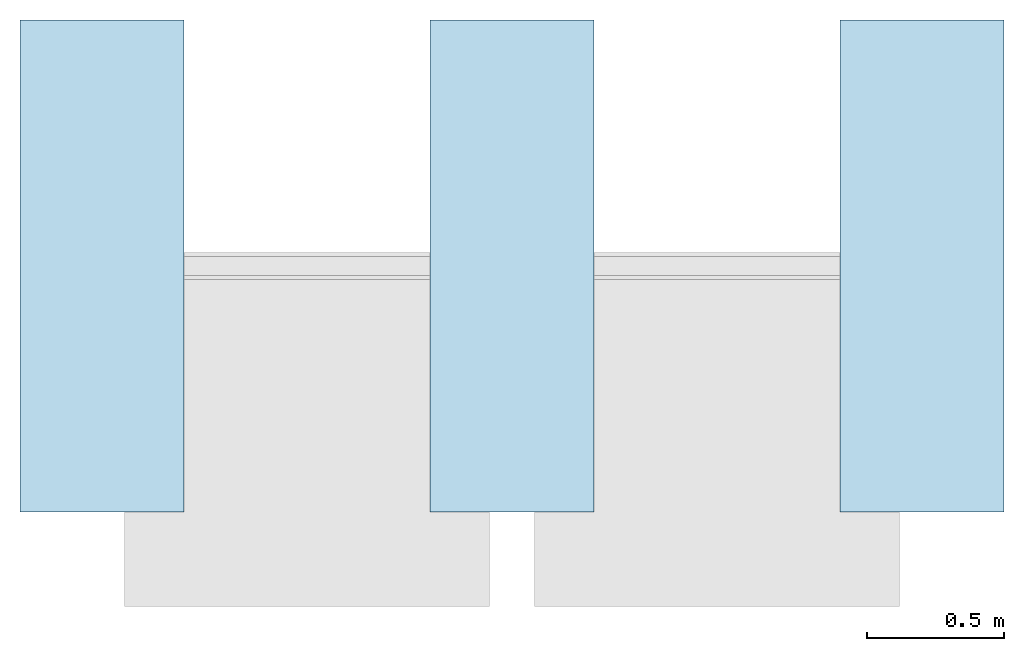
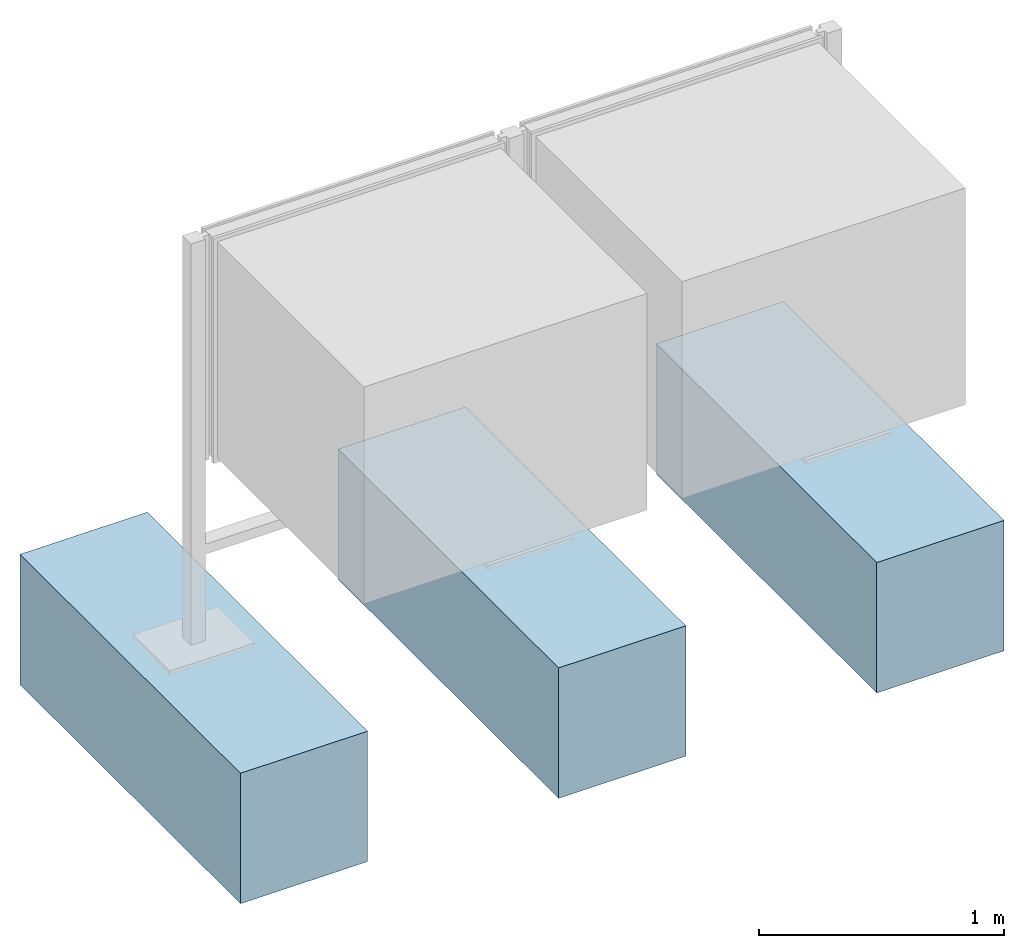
# One storey, incomplete: 3 slabs.
"""IFC4 building model written with IfcOpenShell, lengths in metres."""

from ifc_helpers import new_model, entity, si_unit, converted_unit, direction, frame, frame_2d, origin, origin_2d_with_axis, place, context, subcontext, project, spatial, rectangle, extrude, material, type_object, element, save


model = new_model("IFC4")

# Units and contexts
model_context = context("Model", 3, precision=1e-05, world=origin(), true_north=direction((6.123031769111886e-17, 1.0)))
body_context = subcontext(model_context, "Body", "Model", "MODEL_VIEW")
ifc_project = project(units=[si_unit("LENGTHUNIT", "METRE"), converted_unit("PLANEANGLEUNIT", "DEGREE", entity("IfcPlaneAngleMeasure", 0.017453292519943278), si_unit("PLANEANGLEUNIT", "RADIAN"), dimensions=[0, 0, 0, 0, 0, 0, 0]), si_unit("AREAUNIT", "SQUARE_METRE")], contexts=[model_context])

# Site, building, storey
site_placement = place(None, origin())
site = spatial("IfcSite", under=ifc_project, at=site_placement, Name="Default", CompositionType="ELEMENT")
building_placement = place(site_placement, origin())
building = spatial("IfcBuilding", under=site, at=building_placement, CompositionType="ELEMENT")
storey_placement = place(building_placement, origin())
storey = spatial("IfcBuildingStorey", under=building, at=storey_placement, Name="DB_Bezugshoehe_max_Bahnsteigkante", CompositionType="ELEMENT", Elevation=0.0)

# Slabs
ifc_material = material(Name="DB_Ortbeton", Category="DB_Beton")
slab_type = type_object("IfcSlabType", Name="DB_Vitrine_Fundament:DB_Vitrine_Fundament", PredefinedType="BASESLAB", material=ifc_material)
slab_1_placement = place(storey_placement, origin())
element("IfcSlab", 1, at=slab_1_placement, inside=storey, type_object=slab_type, Name="DB_Vitrine_Fundament:DB_Vitrine_Fundament", ObjectType="DB_Vitrine_Fundament:DB_Vitrine_Fundament", PredefinedType="BASESLAB", context=body_context, shape_type="SweptSolid", body=[
    extrude(rectangle(XDim=1.8, YDim=0.5999999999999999, at=origin_2d_with_axis()), frame((-0.0006257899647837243, 0.0, 0.04999999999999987), z_axis=(0.0, 0.0, 1.0), x_axis=(0.0, 1.0, 0.0)), (0.0, 0.0, 1.0), 0.5999999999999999),
    extrude(rectangle(XDim=0.5999999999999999, YDim=1.7999999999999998, at=origin_2d_with_axis()), frame((-0.0006257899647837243, 0.0, 0.0), z_axis=(0.0, 0.0, 1.0), x_axis=(-1.0, 0.0, 0.0)), (0.0, 0.0, 1.0), 0.04999999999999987),
])
slab_2_placement = place(storey_placement, origin())
element("IfcSlab", 2, at=slab_2_placement, inside=storey, type_object=slab_type, Name="DB_Vitrine_Fundament:DB_Vitrine_Fundament", ObjectType="DB_Vitrine_Fundament:DB_Vitrine_Fundament", PredefinedType="BASESLAB", context=body_context, shape_type="SweptSolid", body=[
    extrude(rectangle(XDim=1.8, YDim=0.5999999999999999, at=frame_2d((0.0, -8.326672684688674e-17), x_axis=(1.0, 0.0))), frame((1.4993742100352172, 0.0, 0.04999999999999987), z_axis=(0.0, 0.0, 1.0), x_axis=(0.0, 1.0, 0.0)), (0.0, 0.0, 1.0), 0.5999999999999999),
    extrude(rectangle(XDim=0.5999999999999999, YDim=1.7999999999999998, at=frame_2d((-1.3877787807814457e-16, 0.0), x_axis=(1.0, 0.0))), frame((1.4993742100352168, 0.0, 0.0), z_axis=(0.0, 0.0, 1.0), x_axis=(-1.0, 0.0, 0.0)), (0.0, 0.0, 1.0), 0.04999999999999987),
])
slab_3_placement = place(storey_placement, origin())
element("IfcSlab", 3, at=slab_3_placement, inside=storey, type_object=slab_type, Name="DB_Vitrine_Fundament:DB_Vitrine_Fundament", ObjectType="DB_Vitrine_Fundament:DB_Vitrine_Fundament", PredefinedType="BASESLAB", context=body_context, shape_type="SweptSolid", body=[
    extrude(rectangle(XDim=1.8, YDim=0.6000000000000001, at=origin_2d_with_axis()), frame((2.9993742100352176, 0.0, 0.04999999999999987), z_axis=(0.0, 0.0, 1.0), x_axis=(0.0, 1.0, 0.0)), (0.0, 0.0, 1.0), 0.5999999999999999),
    extrude(rectangle(XDim=0.6000000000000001, YDim=1.7999999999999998, at=origin_2d_with_axis()), frame((2.9993742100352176, 0.0, 0.0), z_axis=(0.0, 0.0, 1.0), x_axis=(-1.0, 0.0, 0.0)), (0.0, 0.0, 1.0), 0.04999999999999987),
])

save(model, "model.ifc")
